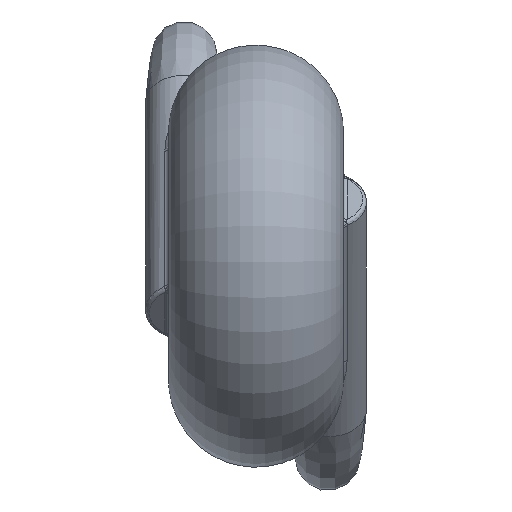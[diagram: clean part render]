
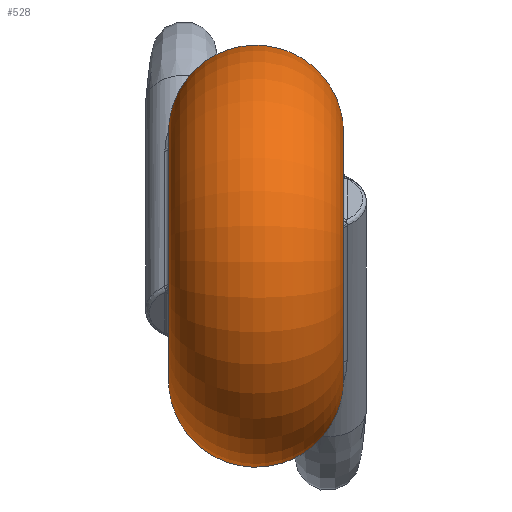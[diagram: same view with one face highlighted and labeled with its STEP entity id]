
A CAD part, left-side view. The second image highlights one B-rep face of the part: STEP entity #528.
In plain terms, the highlighted toroidal (fillet/blend) face has major radius 3.195 mm and minor radius 2.255 mm.
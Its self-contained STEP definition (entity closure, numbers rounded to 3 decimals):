
#20=TOROIDAL_SURFACE('',#582,3.195,2.255);
#77=B_SPLINE_CURVE_WITH_KNOTS('',3,(#1570,#1571,#1572,#1573,#1574,#1575,
#1576,#1577,#1578,#1579,#1580,#1581,#1582),.UNSPECIFIED.,.F.,.F.,(4,1,1,
1,1,1,1,1,1,1,4),(-0.791,-0.678,-0.565,
-0.508,-0.452,-0.381,-0.339,
-0.282,-0.226,-0.113,0.),
 .UNSPECIFIED.);
#78=B_SPLINE_CURVE_WITH_KNOTS('',3,(#1588,#1589,#1590,#1591,#1592,#1593,
#1594,#1595,#1596,#1597,#1598,#1599,#1600,#1601,#1602,#1603),
 .UNSPECIFIED.,.F.,.F.,(4,1,1,1,1,1,1,1,1,1,1,1,1,4),(-0.791,
-0.734,-0.678,-0.593,-0.565,
-0.494,-0.452,-0.395,-0.339,
-0.282,-0.226,-0.113,-0.056,
0.),.UNSPECIFIED.);
#95=FACE_BOUND('',#167,.T.);
#125=FACE_OUTER_BOUND('',#166,.T.);
#166=EDGE_LOOP('',(#417,#418));
#167=EDGE_LOOP('',(#419,#420));
#205=CIRCLE('',#583,3.195);
#206=CIRCLE('',#584,3.195);
#245=VERTEX_POINT('',#1500);
#246=VERTEX_POINT('',#1568);
#247=VERTEX_POINT('',#1586);
#248=VERTEX_POINT('',#1587);
#308=EDGE_CURVE('',#246,#245,#77,.T.);
#310=EDGE_CURVE('',#247,#248,#78,.T.);
#311=EDGE_CURVE('',#247,#248,#205,.T.);
#312=EDGE_CURVE('',#246,#245,#206,.T.);
#417=ORIENTED_EDGE('',*,*,#310,.T.);
#418=ORIENTED_EDGE('',*,*,#311,.F.);
#419=ORIENTED_EDGE('',*,*,#308,.T.);
#420=ORIENTED_EDGE('',*,*,#312,.F.);
#528=ADVANCED_FACE('',(#125,#95),#20,.T.);
#582=AXIS2_PLACEMENT_3D('',#1585,#693,#694);
#583=AXIS2_PLACEMENT_3D('',#1604,#695,#696);
#584=AXIS2_PLACEMENT_3D('',#1605,#697,#698);
#693=DIRECTION('center_axis',(0.,1.,0.));
#694=DIRECTION('ref_axis',(1.,0.,0.));
#695=DIRECTION('center_axis',(0.,-1.,0.));
#696=DIRECTION('ref_axis',(-1.,0.,0.));
#697=DIRECTION('center_axis',(0.,1.,0.));
#698=DIRECTION('ref_axis',(-1.,0.,0.));
#1500=CARTESIAN_POINT('',(1.536,3.7,2.802));
#1568=CARTESIAN_POINT('',(2.933,3.7,1.267));
#1570=CARTESIAN_POINT('Ctrl Pts',(2.933,3.7,1.267));
#1571=CARTESIAN_POINT('Ctrl Pts',(3.173,3.7,1.522));
#1572=CARTESIAN_POINT('Ctrl Pts',(3.729,3.556,1.937));
#1573=CARTESIAN_POINT('Ctrl Pts',(4.282,2.993,2.37));
#1574=CARTESIAN_POINT('Ctrl Pts',(4.385,2.465,2.84));
#1575=CARTESIAN_POINT('Ctrl Pts',(4.237,2.108,3.292));
#1576=CARTESIAN_POINT('Ctrl Pts',(3.888,1.999,3.733));
#1577=CARTESIAN_POINT('Ctrl Pts',(3.47,2.145,4.069));
#1578=CARTESIAN_POINT('Ctrl Pts',(3.093,2.439,4.226));
#1579=CARTESIAN_POINT('Ctrl Pts',(2.624,2.979,4.149));
#1580=CARTESIAN_POINT('Ctrl Pts',(2.195,3.548,3.602));
#1581=CARTESIAN_POINT('Ctrl Pts',(1.788,3.7,3.042));
#1582=CARTESIAN_POINT('Ctrl Pts',(1.536,3.7,2.802));
#1585=CARTESIAN_POINT('Origin',(0.,1.445,0.));
#1586=CARTESIAN_POINT('',(2.933,-0.81,-1.267));
#1587=CARTESIAN_POINT('',(1.536,-0.81,-2.802));
#1588=CARTESIAN_POINT('Ctrl Pts',(2.933,-0.81,-1.267));
#1589=CARTESIAN_POINT('Ctrl Pts',(3.053,-0.81,-1.395));
#1590=CARTESIAN_POINT('Ctrl Pts',(3.31,-0.775,-1.631));
#1591=CARTESIAN_POINT('Ctrl Pts',(3.775,-0.579,-1.973));
#1592=CARTESIAN_POINT('Ctrl Pts',(4.116,-0.275,-2.239));
#1593=CARTESIAN_POINT('Ctrl Pts',(4.338,0.126,-2.572));
#1594=CARTESIAN_POINT('Ctrl Pts',(4.383,0.46,-2.873));
#1595=CARTESIAN_POINT('Ctrl Pts',(4.221,0.765,-3.295));
#1596=CARTESIAN_POINT('Ctrl Pts',(3.923,0.89,-3.695));
#1597=CARTESIAN_POINT('Ctrl Pts',(3.505,0.773,-4.055));
#1598=CARTESIAN_POINT('Ctrl Pts',(3.093,0.45,-4.226));
#1599=CARTESIAN_POINT('Ctrl Pts',(2.625,-0.088,
-4.149));
#1600=CARTESIAN_POINT('Ctrl Pts',(2.279,-0.543,-3.712));
#1601=CARTESIAN_POINT('Ctrl Pts',(1.895,-0.771,-3.181));
#1602=CARTESIAN_POINT('Ctrl Pts',(1.662,-0.81,-2.922));
#1603=CARTESIAN_POINT('Ctrl Pts',(1.536,-0.81,-2.802));
#1604=CARTESIAN_POINT('Origin',(0.,-0.81,0.));
#1605=CARTESIAN_POINT('Origin',(0.,3.7,0.));
